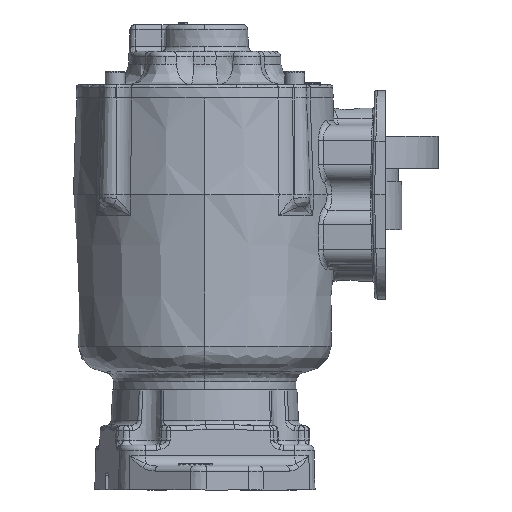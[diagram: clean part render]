
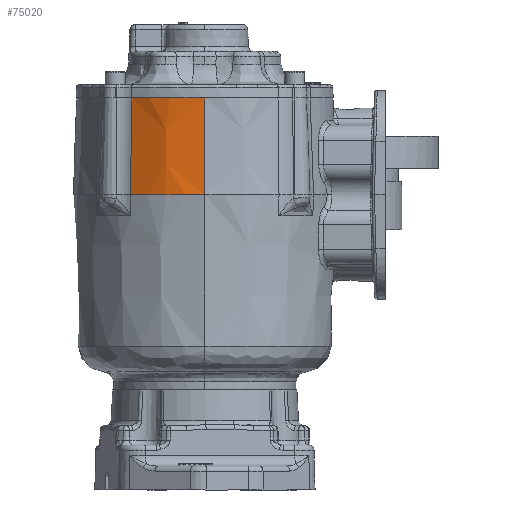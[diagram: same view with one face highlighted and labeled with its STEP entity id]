
A CAD part, left-side view. The second image highlights one B-rep face of the part: STEP entity #75020.
In plain terms, the highlighted conical face has half-angle 2 degrees and reference radius 78.232 mm.
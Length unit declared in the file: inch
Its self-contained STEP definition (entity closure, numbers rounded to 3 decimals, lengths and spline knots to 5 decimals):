
#3566 = CARTESIAN_POINT ( 'NONE',  ( -3.94221, 2.16684, 2.61184 ) ) ;
#4433 = CARTESIAN_POINT ( 'NONE',  ( -3.6444, 3.19183, 2.61184 ) ) ;
#5315 = CARTESIAN_POINT ( 'NONE',  ( -3.58603, 3.3051, 2.61184 ) ) ;
#5652 = CARTESIAN_POINT ( 'NONE',  ( -0.95267, 1.86514, 0.34734 ) ) ;
#9246 = CARTESIAN_POINT ( 'NONE',  ( -3.49656, 3.60152, 0.34734 ) ) ;
#11439 = ORIENTED_EDGE ( 'NONE', *, *, #140038, .F. ) ;
#14808 = CARTESIAN_POINT ( 'NONE',  ( -3.49656, 3.60152, 0.34734 ) ) ;
#16677 = CARTESIAN_POINT ( 'NONE',  ( -3.63179, 3.21717, 2.61184 ) ) ;
#18187 = VERTEX_POINT ( 'NONE', #30296 ) ;
#18388 = CARTESIAN_POINT ( 'NONE',  ( -3.89684, 2.44821, 2.61184 ) ) ;
#22314 = CARTESIAN_POINT ( 'NONE',  ( -3.44291, 3.58522, 1.87838 ) ) ;
#30296 = CARTESIAN_POINT ( 'NONE',  ( -3.41704, 3.57757, 2.61184 ) ) ;
#30590 = CARTESIAN_POINT ( 'NONE',  ( -3.4602, 3.51546, 2.61184 ) ) ;
#33274 = DIRECTION ( 'NONE',  ( 0., 0., -1. ) ) ;
#33360 = B_SPLINE_CURVE_WITH_KNOTS ( 'NONE', 3,
 ( #168035, #22314, #75476, #9246 ),
 .UNSPECIFIED., .F., .F.,
 ( 4, 4 ),
 ( 0., 1. ),
 .UNSPECIFIED. ) ;
#35494 = VERTEX_POINT ( 'NONE', #14808 ) ;
#39927 = EDGE_CURVE ( 'NONE', #18187, #79042, #157884, .T. ) ;
#42798 = CARTESIAN_POINT ( 'NONE',  ( -3.64233, 3.19602, 2.61184 ) ) ;
#43847 = ORIENTED_EDGE ( 'NONE', *, *, #39927, .F. ) ;
#48341 = ORIENTED_EDGE ( 'NONE', *, *, #49324, .F. ) ;
#49324 = EDGE_CURVE ( 'NONE', #79042, #148866, #147512, .T. ) ;
#50177 = CARTESIAN_POINT ( 'NONE',  ( -4.03267, 1.86514, 0.34734 ) ) ;
#53284 = DIRECTION ( 'NONE',  ( -0.035, 0., -0.999 ) ) ;
#58891 = EDGE_CURVE ( 'NONE', #18187, #35494, #33360, .T. ) ;
#59333 = CARTESIAN_POINT ( 'NONE',  ( -3.95359, 1.86514, 2.61184 ) ) ;
#69812 = CARTESIAN_POINT ( 'NONE',  ( -3.77055, 2.90843, 2.61184 ) ) ;
#71542 = CARTESIAN_POINT ( 'NONE',  ( -3.91802, 2.32584, 2.61184 ) ) ;
#71884 = DIRECTION ( 'NONE',  ( 1., 0., 0. ) ) ;
#73261 = CARTESIAN_POINT ( 'NONE',  ( -3.63813, 3.20449, 2.61184 ) ) ;
#75020 = ADVANCED_FACE ( 'NONE', ( #152806 ), #159627, .T. ) ;
#75476 = CARTESIAN_POINT ( 'NONE',  ( -3.46942, 3.5932, 1.12354 ) ) ;
#79042 = VERTEX_POINT ( 'NONE', #133703 ) ;
#84320 = AXIS2_PLACEMENT_3D ( 'NONE', #134778, #33274, #126606 ) ;
#84631 = CARTESIAN_POINT ( 'NONE',  ( -3.71395, 3.05017, 2.61184 ) ) ;
#85497 = CARTESIAN_POINT ( 'NONE',  ( -3.90878, 2.38244, 2.61184 ) ) ;
#95988 = CARTESIAN_POINT ( 'NONE',  ( -3.95359, 2.01642, 2.61184 ) ) ;
#96863 = CARTESIAN_POINT ( 'NONE',  ( -3.86924, 2.57888, 2.61184 ) ) ;
#109114 = CARTESIAN_POINT ( 'NONE',  ( -3.83919, 2.68939, 2.61184 ) ) ;
#110829 = CARTESIAN_POINT ( 'NONE',  ( -3.91876, 2.32106, 2.61184 ) ) ;
#111695 = CARTESIAN_POINT ( 'NONE',  ( -3.52125, 3.42012, 2.61184 ) ) ;
#112537 = CARTESIAN_POINT ( 'NONE',  ( -3.41704, 3.57757, 2.61184 ) ) ;
#119561 = CARTESIAN_POINT ( 'NONE',  ( -4.03267, 1.86514, 0.34734 ) ) ;
#126606 = DIRECTION ( 'NONE',  ( -1., 0., 0. ) ) ;
#127239 = ORIENTED_EDGE ( 'NONE', *, *, #58891, .T. ) ;
#128608 = DIRECTION ( 'NONE',  ( 0., 0., -1. ) ) ;
#133118 = EDGE_LOOP ( 'NONE', ( #48341, #43847, #127239, #11439 ) ) ;
#133703 = CARTESIAN_POINT ( 'NONE',  ( -3.95359, 1.86514, 2.61184 ) ) ;
#134778 = CARTESIAN_POINT ( 'NONE',  ( -0.95267, 1.86514, 0.34734 ) ) ;
#136974 = CIRCLE ( 'NONE', #139723, 3.08 ) ;
#137062 = CARTESIAN_POINT ( 'NONE',  ( -3.91428, 2.34945, 2.61184 ) ) ;
#137913 = CARTESIAN_POINT ( 'NONE',  ( -3.61681, 3.24664, 2.61184 ) ) ;
#139723 = AXIS2_PLACEMENT_3D ( 'NONE', #5652, #128608, #71884 ) ;
#140038 = EDGE_CURVE ( 'NONE', #148866, #35494, #136974, .T. ) ;
#144303 = VECTOR ( 'NONE', #53284, 39.37008 ) ;
#147512 = LINE ( 'NONE', #119561, #144303 ) ;
#148866 = VERTEX_POINT ( 'NONE', #50177 ) ;
#152806 = FACE_OUTER_BOUND ( 'NONE', #133118, .T. ) ;
#157884 = B_SPLINE_CURVE_WITH_KNOTS ( 'NONE', 3,
 ( #112537, #30590, #111695, #5315, #137913, #16677, #73261, #42798, #4433, #84631, #69812, #109114, #96863, #18388, #85497, #137062, #162384, #71542, #110829, #3566, #95988, #59333 ),
 .UNSPECIFIED., .F., .F.,
 ( 4, 1, 1, 1, 1, 2, 2, 2, 1, 1, 1, 1, 2, 2, 4 ),
 ( 0., 0.125, 0.1875, 0.21875, 0.23437, 0.24219, 0.25, 0.5, 0.625, 0.6875, 0.71875, 0.73437, 0.74219, 0.75, 1. ),
 .UNSPECIFIED. ) ;
#159627 = CONICAL_SURFACE ( 'NONE', #84320, 3.08, 0.035 ) ;
#162384 = CARTESIAN_POINT ( 'NONE',  ( -3.91653, 2.33529, 2.61184 ) ) ;
#168035 = CARTESIAN_POINT ( 'NONE',  ( -3.41704, 3.57757, 2.61184 ) ) ;
